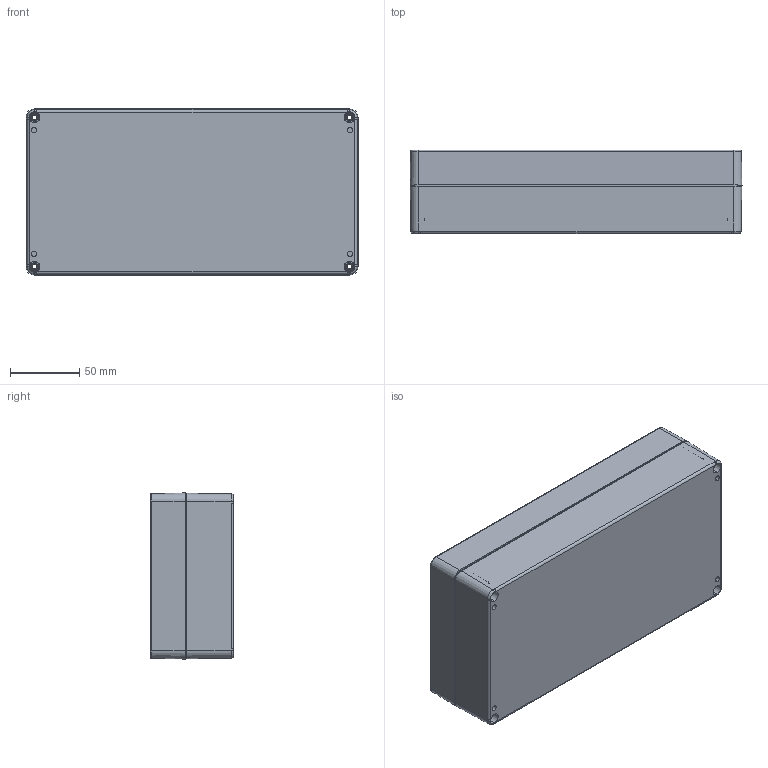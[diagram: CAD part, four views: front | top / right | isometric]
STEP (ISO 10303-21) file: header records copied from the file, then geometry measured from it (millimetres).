
FILE_DESCRIPTION (( 'STEP AP203' ), '1' );
FILE_NAME ('PE248.STEP', '2020-01-02T07:42:25', ( '' ), ( '' ), 'SwSTEP 2.0', 'SolidWorks 2020', '' );
FILE_SCHEMA (( 'CONFIG_CONTROL_DESIGN' ));
Length unit declared in the file: millimetre
Products named in the file (4): PE248
Assembly tree (3 placements, depth 2):
  PE248
    PE248
    PE248
    PE248
Bounding box: 239.6 x 60.1 x 119.9 mm (x, y, z)
Volume: 359824.5 mm3; surface area: 268408.5 mm2
Topology: 11 solids, 11 shells, 1543 faces, 3984 edges, 2574 vertices
Faces by surface type: cylinder 456, bspline 452, plane 335, cone 296, torus 4
Entity records: 52628 total; most frequent: CARTESIAN_POINT 16761, ORIENTED_EDGE 7932, DIRECTION 6706, EDGE_CURVE 3966, VERTEX_POINT 2574, AXIS2_PLACEMENT_3D 2563, EDGE_LOOP 1762, LINE 1580
